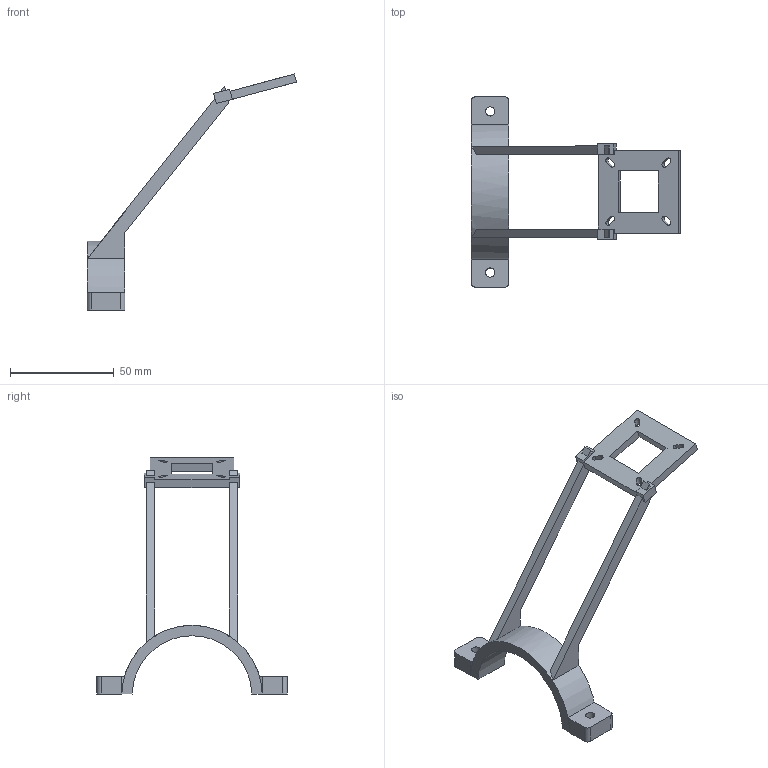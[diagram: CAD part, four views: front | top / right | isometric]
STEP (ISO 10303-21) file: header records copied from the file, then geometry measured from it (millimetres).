
FILE_DESCRIPTION(('Open CASCADE Model'),'2;1');
FILE_NAME('Open CASCADE Shape Model','2026-09-19T13:10:39',('Author'),( 'Open CASCADE'),'Open CASCADE STEP processor 7.9','Open CASCADE 7.9' ,'Unknown');
FILE_SCHEMA(('AUTOMOTIVE_DESIGN { 1 0 10303 214 1 1 1 1 }'));
Length unit declared in the file: millimetre
Products named in the file (1): Open CASCADE STEP translator 7.9 1
Bounding box: 100.69 x 91.6 x 113.62 mm (x, y, z)
Volume: 22206.9 mm3; surface area: 13664.1 mm2
Topology: 1 solids, 1 shells, 74 faces, 222 edges, 148 vertices
Faces by surface type: plane 54, cylinder 20
Full cylindrical faces by diameter (mm): 4.5 x2
Entity records: 5656 total; most frequent: CARTESIAN_POINT 1351, DIRECTION 762, LINE 508, VECTOR 508, ORIENTED_EDGE 444, PCURVE 444, DEFINITIONAL_REPRESENTATION 444, EDGE_CURVE 222
